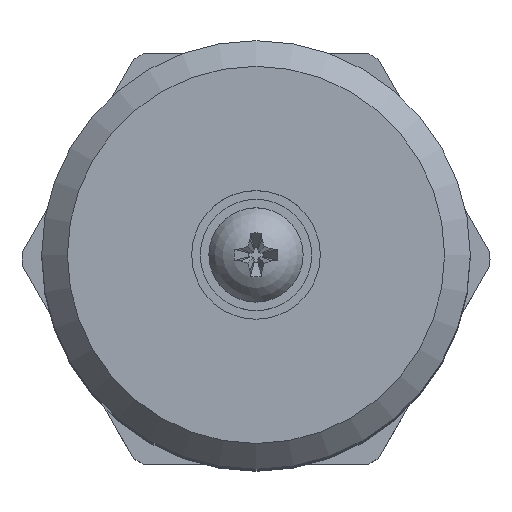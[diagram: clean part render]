
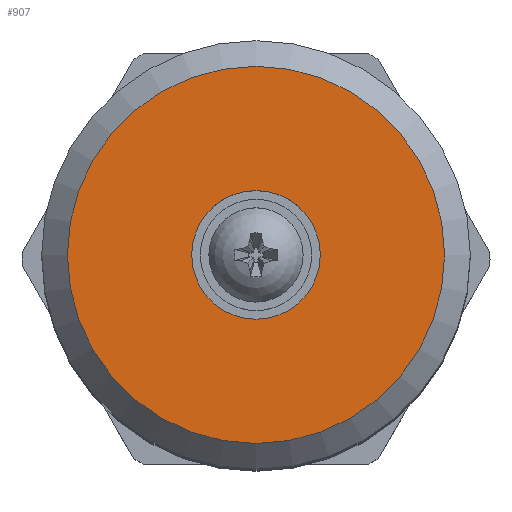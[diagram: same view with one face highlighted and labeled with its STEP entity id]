
A CAD part, top view. The second image highlights one B-rep face of the part: STEP entity #907.
In plain terms, the highlighted planar face has unit normal (0, 0, 1) as drawn and (0, 1, 0) by its records, which use the part's own axes.
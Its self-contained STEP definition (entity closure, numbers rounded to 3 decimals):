
#907=ADVANCED_FACE('',(#1906,#1908),#1910,.T.);
#1906=FACE_BOUND('',#1907,.T.);
#1907=EDGE_LOOP('',(#2393));
#1908=FACE_BOUND('',#1909,.T.);
#1909=EDGE_LOOP('',(#2394));
#1910=PLANE('',#1911);
#1911=AXIS2_PLACEMENT_3D('',#1912,#1913,#1914);
#1912=CARTESIAN_POINT('',(0.,5.,0.));
#1913=DIRECTION('',(0.,1.,0.));
#1914=DIRECTION('',(-1.,0.,0.));
#2393=ORIENTED_EDGE('',*,*,#2645,.T.);
#2394=ORIENTED_EDGE('',*,*,#2646,.T.);
#2645=EDGE_CURVE('',#2908,#2908,#2909,.T.);
#2646=EDGE_CURVE('',#2910,#2910,#2911,.F.);
#2908=VERTEX_POINT('',#3778);
#2909=CIRCLE('',#3779,11.);
#2910=VERTEX_POINT('',#3783);
#2911=CIRCLE('',#3784,3.75);
#3778=CARTESIAN_POINT('',(-11.,5.,0.));
#3779=AXIS2_PLACEMENT_3D('',#3780,#3781,#3782);
#3780=CARTESIAN_POINT('',(0.,5.,0.));
#3781=DIRECTION('',(0.,1.,0.));
#3782=DIRECTION('',(-1.,0.,0.));
#3783=CARTESIAN_POINT('',(0.,5.,3.75));
#3784=AXIS2_PLACEMENT_3D('',#3785,#3786,#3787);
#3785=CARTESIAN_POINT('',(0.,5.,0.));
#3786=DIRECTION('',(0.,1.,0.));
#3787=DIRECTION('',(0.,0.,1.));
